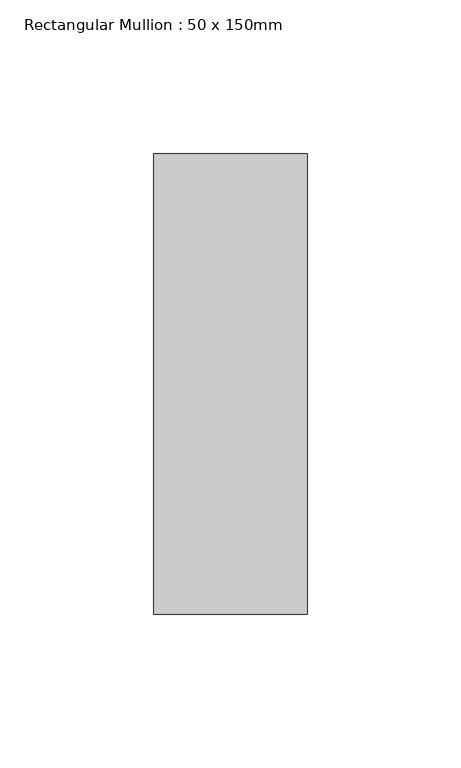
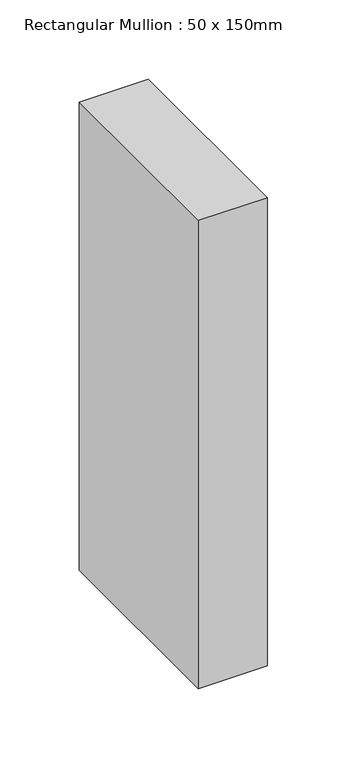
"""IFC4 building model written with IfcOpenShell, lengths in millimetres: member geometry, Rectangular Mullion : 50 x 150mm."""

from ifc_helpers import new_model, si_unit, frame, origin, place, context, project, spatial, polyline, outline, extrude, source, transform, mapped, element, save


def rectangular_mullion_50_x_150mm_16fa530b(model_context):
    return source(origin(), model_context, "Body", "SweptSolid", [
        extrude(outline(polyline([(0.0, 75.0), (0.0, -75.0), (-50.0, -75.0), (-50.0, 75.0), (0.0, 75.0)])), frame((0.0, 0.0, -360.0), z_axis=(0.0, 0.0, 1.0), x_axis=(1.0, 0.0, 0.0)), (0.0, 0.0, 1.0), 360.0),
    ])


if __name__ == "__main__":
    model = new_model("IFC4")
    model_context = context("Model", 3, world=origin())
    ifc_project = project(units=[si_unit("LENGTHUNIT", "METRE", prefix="MILLI")], contexts=[model_context])
    site = spatial("IfcSite", under=ifc_project)
    building = spatial("IfcBuilding", under=site)
    placement = place(None, origin())
    rectangular_mullion_50_x_150mm_shape = rectangular_mullion_50_x_150mm_16fa530b(model_context)
    element("IfcMember", 1, ObjectType="Rectangular Mullion : 50 x 150mm", at=placement, inside=building, context=model_context, shape_type="MappedRepresentation", body=[
        mapped(rectangular_mullion_50_x_150mm_shape, transform((0.0, 0.0, 0.0), x_axis=(1.0, 0.0, 0.0), y_axis=(0.0, 1.0, 0.0), z_axis=(0.0, 0.0, 1.0))),
    ])
    save(model, "model.ifc")
